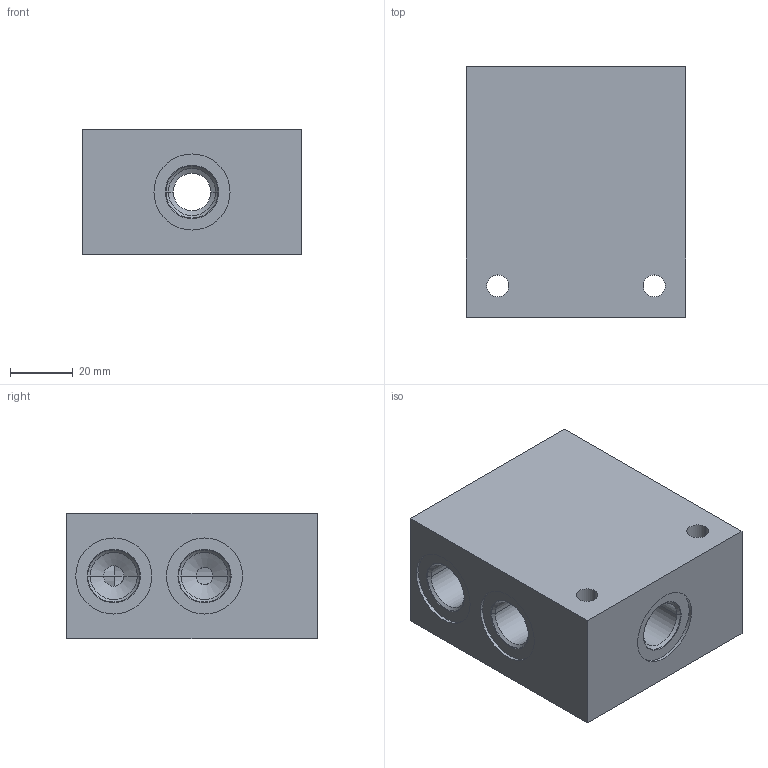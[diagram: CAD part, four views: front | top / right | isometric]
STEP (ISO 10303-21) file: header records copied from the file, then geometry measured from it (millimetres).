
FILE_DESCRIPTION((''),'2;1');
FILE_NAME('156627','2023-10-11T',('l.soukupova'),(''),'PRO/ENGINEER BY PARAMETRIC TECHNOLOGY CORPORATION, 2015440','PRO/ENGINEER BY PARAMETRIC TECHNOLOGY CORPORATION, 2015440','');
FILE_SCHEMA(('AUTOMOTIVE_DESIGN { 1 0 10303 214 1 1 1 1 }'));
Length unit declared in the file: millimetre
Products named in the file (1): 156627
Bounding box: 70 x 80 x 40 mm (x, y, z)
Volume: 194787.9 mm3; surface area: 34352.4 mm2
Topology: 1 solids, 6 shells, 100 faces, 317 edges, 257 vertices
Faces by surface type: cylinder 52, cone 32, plane 16
Entity records: 4752 total; most frequent: CARTESIAN_POINT 822, DIRECTION 645, ORIENTED_EDGE 430, PRESENTATION_STYLE_ASSIGNMENT 340, STYLED_ITEM 340, CURVE_STYLE 334, AXIS2_PLACEMENT_3D 232, EDGE_CURVE 225
